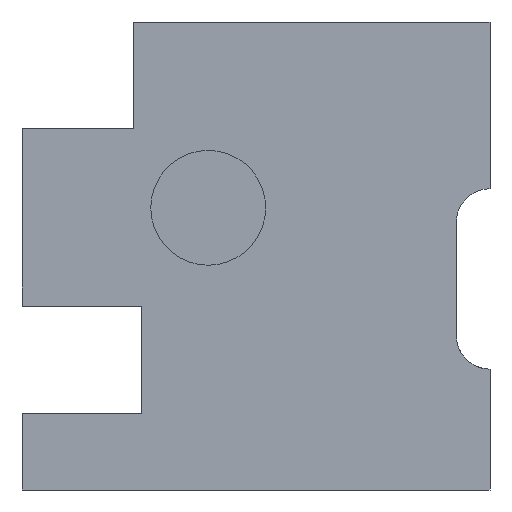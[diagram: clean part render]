
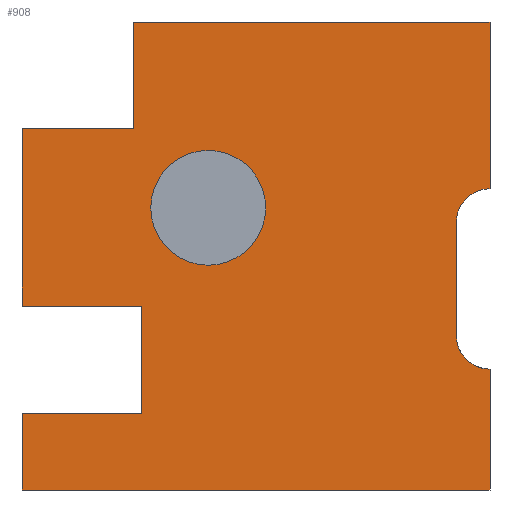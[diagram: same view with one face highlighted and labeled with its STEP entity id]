
A CAD part, front view. The second image highlights one B-rep face of the part: STEP entity #908.
In plain terms, the highlighted planar face has unit normal (0, -1, 0).
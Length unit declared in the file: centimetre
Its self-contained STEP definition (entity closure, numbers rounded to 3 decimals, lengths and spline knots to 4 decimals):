
#14 = CIRCLE ( 'NONE', #890, 122.7548 ) ;
#18 = ORIENTED_EDGE ( 'NONE', *, *, #298, .F. ) ;
#23 = CARTESIAN_POINT ( 'NONE',  ( 1000., 0., 0. ) ) ;
#24 = DIRECTION ( 'NONE',  ( 0., 0., 1. ) ) ;
#37 = VECTOR ( 'NONE', #270, 100. ) ;
#44 = VERTEX_POINT ( 'NONE', #728 ) ;
#49 = CARTESIAN_POINT ( 'NONE',  ( 255.3383, 0., 162.508 ) ) ;
#52 = ORIENTED_EDGE ( 'NONE', *, *, #223, .F. ) ;
#53 = CARTESIAN_POINT ( 'NONE',  ( 1000., 0., 258.1407 ) ) ;
#54 = EDGE_CURVE ( 'NONE', #688, #173, #886, .T. ) ;
#56 = ORIENTED_EDGE ( 'NONE', *, *, #520, .F. ) ;
#60 = CARTESIAN_POINT ( 'NONE',  ( 0., 0., 393.1097 ) ) ;
#61 = CARTESIAN_POINT ( 'NONE',  ( 255.3383, 0., 393.1097 ) ) ;
#63 = EDGE_CURVE ( 'NONE', #567, #322, #971, .T. ) ;
#75 = CARTESIAN_POINT ( 'NONE',  ( 1000., 0., 1000. ) ) ;
#83 = VERTEX_POINT ( 'NONE', #731 ) ;
#86 = EDGE_CURVE ( 'NONE', #132, #203, #206, .T. ) ;
#90 = VERTEX_POINT ( 'NONE', #515 ) ;
#108 = EDGE_CURVE ( 'NONE', #132, #711, #443, .T. ) ;
#115 = CARTESIAN_POINT ( 'NONE',  ( 397.9297, 0., 602.9885 ) ) ;
#120 = CARTESIAN_POINT ( 'NONE',  ( 1000., 0., 330.3638 ) ) ;
#124 = VECTOR ( 'NONE', #896, 100. ) ;
#125 = CIRCLE ( 'NONE', #863, 122.7548 ) ;
#132 = VERTEX_POINT ( 'NONE', #373 ) ;
#150 = FACE_OUTER_BOUND ( 'NONE', #738, .T. ) ;
#156 = VECTOR ( 'NONE', #292, 100. ) ;
#165 = ORIENTED_EDGE ( 'NONE', *, *, #562, .F. ) ;
#170 = EDGE_CURVE ( 'NONE', #533, #90, #669, .T. ) ;
#173 = VERTEX_POINT ( 'NONE', #678 ) ;
#179 = DIRECTION ( 'NONE',  ( 0., 0., -1. ) ) ;
#197 = VECTOR ( 'NONE', #24, 100. ) ;
#203 = VERTEX_POINT ( 'NONE', #972 ) ;
#206 = LINE ( 'NONE', #282, #943 ) ;
#209 = LINE ( 'NONE', #49, #575 ) ;
#223 = EDGE_CURVE ( 'NONE', #406, #83, #670, .T. ) ;
#227 = LINE ( 'NONE', #914, #784 ) ;
#234 = DIRECTION ( 'NONE',  ( 1., 0., 0. ) ) ;
#253 = VERTEX_POINT ( 'NONE', #294 ) ;
#264 = ORIENTED_EDGE ( 'NONE', *, *, #351, .F. ) ;
#265 = CIRCLE ( 'NONE', #284, 72.2231 ) ;
#270 = DIRECTION ( 'NONE',  ( 1., 0., 0. ) ) ;
#282 = CARTESIAN_POINT ( 'NONE',  ( 0., 0., 162.508 ) ) ;
#284 = AXIS2_PLACEMENT_3D ( 'NONE', #826, #444, #746 ) ;
#292 = DIRECTION ( 'NONE',  ( -1., 0., 0. ) ) ;
#294 = CARTESIAN_POINT ( 'NONE',  ( 927.7769, 0., 571.4947 ) ) ;
#298 = EDGE_CURVE ( 'NONE', #203, #688, #209, .T. ) ;
#305 = ORIENTED_EDGE ( 'NONE', *, *, #108, .T. ) ;
#307 = ORIENTED_EDGE ( 'NONE', *, *, #503, .F. ) ;
#314 = CARTESIAN_POINT ( 'NONE',  ( 0., 0., 1000. ) ) ;
#322 = VERTEX_POINT ( 'NONE', #53 ) ;
#344 = CARTESIAN_POINT ( 'NONE',  ( 238.627, 0., 771.8085 ) ) ;
#351 = EDGE_CURVE ( 'NONE', #83, #253, #265, .T. ) ;
#360 = DIRECTION ( 'NONE',  ( 0., -1., 0. ) ) ;
#366 = CARTESIAN_POINT ( 'NONE',  ( 1000., 0., 1000. ) ) ;
#368 = CARTESIAN_POINT ( 'NONE',  ( 238.627, 0., 771.8085 ) ) ;
#373 = CARTESIAN_POINT ( 'NONE',  ( 0., 0., 162.508 ) ) ;
#379 = ORIENTED_EDGE ( 'NONE', *, *, #86, .F. ) ;
#388 = CARTESIAN_POINT ( 'NONE',  ( 238.627, 0., 1000. ) ) ;
#403 = ORIENTED_EDGE ( 'NONE', *, *, #719, .T. ) ;
#406 = VERTEX_POINT ( 'NONE', #75 ) ;
#407 = DIRECTION ( 'NONE',  ( 0., -1., 0. ) ) ;
#424 = CARTESIAN_POINT ( 'NONE',  ( 0., 0., 1000. ) ) ;
#433 = DIRECTION ( 'NONE',  ( 1., 0., 0. ) ) ;
#439 = ORIENTED_EDGE ( 'NONE', *, *, #665, .F. ) ;
#443 = LINE ( 'NONE', #744, #124 ) ;
#444 = DIRECTION ( 'NONE',  ( 0., -1., 0. ) ) ;
#486 = VECTOR ( 'NONE', #882, 100. ) ;
#498 = DIRECTION ( 'NONE',  ( 0., 0., -1. ) ) ;
#503 = EDGE_CURVE ( 'NONE', #533, #806, #583, .T. ) ;
#504 = DIRECTION ( 'NONE',  ( 0., 0., 1. ) ) ;
#515 = CARTESIAN_POINT ( 'NONE',  ( 0., 0., 771.8085 ) ) ;
#520 = EDGE_CURVE ( 'NONE', #253, #567, #227, .T. ) ;
#531 = LINE ( 'NONE', #910, #975 ) ;
#533 = VERTEX_POINT ( 'NONE', #344 ) ;
#535 = DIRECTION ( 'NONE',  ( 0., 0., -1. ) ) ;
#538 = DIRECTION ( 'NONE',  ( 0., 1., 0. ) ) ;
#562 = EDGE_CURVE ( 'NONE', #717, #44, #14, .T. ) ;
#567 = VERTEX_POINT ( 'NONE', #661 ) ;
#575 = VECTOR ( 'NONE', #686, 100. ) ;
#581 = DIRECTION ( 'NONE',  ( 0., 0., -1. ) ) ;
#582 = CARTESIAN_POINT ( 'NONE',  ( 1000., 0., 1000. ) ) ;
#583 = LINE ( 'NONE', #725, #197 ) ;
#593 = EDGE_CURVE ( 'NONE', #806, #406, #946, .T. ) ;
#599 = EDGE_LOOP ( 'NONE', ( #762, #165 ) ) ;
#604 = EDGE_CURVE ( 'NONE', #44, #717, #125, .T. ) ;
#613 = CARTESIAN_POINT ( 'NONE',  ( 0., 0., 1000. ) ) ;
#618 = DIRECTION ( 'NONE',  ( 0., 0., -1. ) ) ;
#648 = CARTESIAN_POINT ( 'NONE',  ( 397.9297, 0., 602.9885 ) ) ;
#651 = VERTEX_POINT ( 'NONE', #23 ) ;
#661 = CARTESIAN_POINT ( 'NONE',  ( 927.7769, 0., 330.3638 ) ) ;
#665 = EDGE_CURVE ( 'NONE', #322, #651, #668, .T. ) ;
#668 = LINE ( 'NONE', #582, #927 ) ;
#669 = LINE ( 'NONE', #368, #486 ) ;
#670 = LINE ( 'NONE', #366, #860 ) ;
#673 = VECTOR ( 'NONE', #618, 100. ) ;
#678 = CARTESIAN_POINT ( 'NONE',  ( 0., 0., 393.1097 ) ) ;
#686 = DIRECTION ( 'NONE',  ( 0., 0., 1. ) ) ;
#688 = VERTEX_POINT ( 'NONE', #61 ) ;
#690 = PLANE ( 'NONE',  #864 ) ;
#705 = ORIENTED_EDGE ( 'NONE', *, *, #54, .F. ) ;
#711 = VERTEX_POINT ( 'NONE', #891 ) ;
#717 = VERTEX_POINT ( 'NONE', #820 ) ;
#719 = EDGE_CURVE ( 'NONE', #90, #173, #977, .T. ) ;
#725 = CARTESIAN_POINT ( 'NONE',  ( 238.627, 0., 771.8085 ) ) ;
#728 = CARTESIAN_POINT ( 'NONE',  ( 397.9297, 0., 480.2337 ) ) ;
#729 = DIRECTION ( 'NONE',  ( 0., -1., 0. ) ) ;
#731 = CARTESIAN_POINT ( 'NONE',  ( 1000., 0., 643.7178 ) ) ;
#732 = EDGE_CURVE ( 'NONE', #711, #651, #531, .T. ) ;
#738 = EDGE_LOOP ( 'NONE', ( #307, #756, #403, #705, #18, #379, #305, #791, #439, #897, #56, #264, #52, #865 ) ) ;
#744 = CARTESIAN_POINT ( 'NONE',  ( 0., 0., 1000. ) ) ;
#746 = DIRECTION ( 'NONE',  ( 0., 0., 1. ) ) ;
#756 = ORIENTED_EDGE ( 'NONE', *, *, #170, .T. ) ;
#762 = ORIENTED_EDGE ( 'NONE', *, *, #604, .F. ) ;
#784 = VECTOR ( 'NONE', #535, 100. ) ;
#791 = ORIENTED_EDGE ( 'NONE', *, *, #732, .T. ) ;
#806 = VERTEX_POINT ( 'NONE', #388 ) ;
#814 = AXIS2_PLACEMENT_3D ( 'NONE', #120, #360, #504 ) ;
#820 = CARTESIAN_POINT ( 'NONE',  ( 397.9297, 0., 725.7432 ) ) ;
#826 = CARTESIAN_POINT ( 'NONE',  ( 1000., 0., 571.4947 ) ) ;
#860 = VECTOR ( 'NONE', #960, 100. ) ;
#863 = AXIS2_PLACEMENT_3D ( 'NONE', #115, #729, #581 ) ;
#864 = AXIS2_PLACEMENT_3D ( 'NONE', #314, #538, #980 ) ;
#865 = ORIENTED_EDGE ( 'NONE', *, *, #593, .F. ) ;
#882 = DIRECTION ( 'NONE',  ( -1., 0., 0. ) ) ;
#886 = LINE ( 'NONE', #60, #156 ) ;
#890 = AXIS2_PLACEMENT_3D ( 'NONE', #648, #407, #179 ) ;
#891 = CARTESIAN_POINT ( 'NONE',  ( 0., 0., 0. ) ) ;
#896 = DIRECTION ( 'NONE',  ( 0., 0., -1. ) ) ;
#897 = ORIENTED_EDGE ( 'NONE', *, *, #63, .F. ) ;
#904 = FACE_BOUND ( 'NONE', #599, .T. ) ;
#908 = ADVANCED_FACE ( 'NONE', ( #904, #150 ), #690, .F. ) ;
#910 = CARTESIAN_POINT ( 'NONE',  ( 0., 0., 0. ) ) ;
#914 = CARTESIAN_POINT ( 'NONE',  ( 927.7769, 0., 330.3638 ) ) ;
#927 = VECTOR ( 'NONE', #498, 100. ) ;
#943 = VECTOR ( 'NONE', #433, 100. ) ;
#946 = LINE ( 'NONE', #424, #37 ) ;
#960 = DIRECTION ( 'NONE',  ( 0., 0., -1. ) ) ;
#971 = CIRCLE ( 'NONE', #814, 72.2231 ) ;
#972 = CARTESIAN_POINT ( 'NONE',  ( 255.3383, 0., 162.508 ) ) ;
#975 = VECTOR ( 'NONE', #234, 100. ) ;
#977 = LINE ( 'NONE', #613, #673 ) ;
#980 = DIRECTION ( 'NONE',  ( 0., 0., 1. ) ) ;
